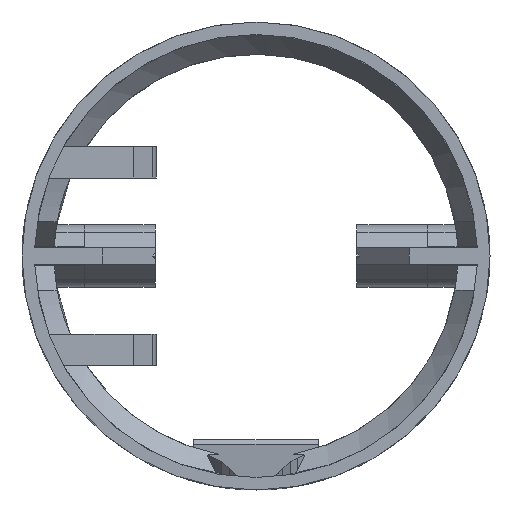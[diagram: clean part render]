
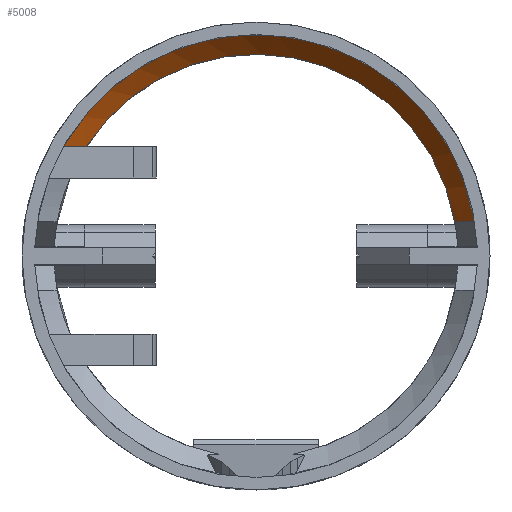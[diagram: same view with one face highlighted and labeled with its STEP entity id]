
A CAD part, left-side view. The second image highlights one B-rep face of the part: STEP entity #5008.
In plain terms, the highlighted conical face has half-angle 40 degrees and reference radius 21.35 mm.
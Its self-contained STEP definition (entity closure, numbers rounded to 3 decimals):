
#1291 = PLANE('',#1292);
#1292 = AXIS2_PLACEMENT_3D('',#1293,#1294,#1295);
#1293 = CARTESIAN_POINT('',(36.9,-30.,3.3));
#1294 = DIRECTION('',(0.,0.,1.));
#1295 = DIRECTION('',(1.,0.,-0.));
#2286 = CYLINDRICAL_SURFACE('',#2287,19.4);
#2287 = AXIS2_PLACEMENT_3D('',#2288,#2289,#2290);
#2288 = CARTESIAN_POINT('',(42.,0.,0.));
#2289 = DIRECTION('',(1.,0.,0.));
#2290 = DIRECTION('',(-0.,1.,0.));
#4874 = VERTEX_POINT('',#4875);
#4875 = CARTESIAN_POINT('',(42.,16.313,10.5));
#4888 = PLANE('',#4889);
#4889 = AXIS2_PLACEMENT_3D('',#4890,#4891,#4892);
#4890 = CARTESIAN_POINT('',(38.931,23.435,10.5));
#4891 = DIRECTION('',(0.,0.,1.));
#4892 = DIRECTION('',(1.,0.,-0.));
#4900 = EDGE_CURVE('',#4874,#4901,#4903,.T.);
#4901 = VERTEX_POINT('',#4902);
#4902 = CARTESIAN_POINT('',(42.,-19.117,3.3));
#4903 = SURFACE_CURVE('',#4904,(#4909,#4916),.PCURVE_S1.);
#4904 = CIRCLE('',#4905,19.4);
#4905 = AXIS2_PLACEMENT_3D('',#4906,#4907,#4908);
#4906 = CARTESIAN_POINT('',(42.,0.,0.));
#4907 = DIRECTION('',(1.,0.,0.));
#4908 = DIRECTION('',(-0.,1.,0.));
#4909 = PCURVE('',#2286,#4910);
#4910 = DEFINITIONAL_REPRESENTATION('',(#4911),#4915);
#4911 = LINE('',#4912,#4913);
#4912 = CARTESIAN_POINT('',(0.,0.));
#4913 = VECTOR('',#4914,1.);
#4914 = DIRECTION('',(1.,0.));
#4915 = ( GEOMETRIC_REPRESENTATION_CONTEXT(2) 
PARAMETRIC_REPRESENTATION_CONTEXT() REPRESENTATION_CONTEXT('2D SPACE',''
  ) );
#4916 = PCURVE('',#4917,#4922);
#4917 = CONICAL_SURFACE('',#4918,21.35,0.698);
#4918 = AXIS2_PLACEMENT_3D('',#4919,#4920,#4921);
#4919 = CARTESIAN_POINT('',(39.676,0.,0.));
#4920 = DIRECTION('',(-1.,-0.,-0.));
#4921 = DIRECTION('',(-0.,1.,0.));
#4922 = DEFINITIONAL_REPRESENTATION('',(#4923),#4927);
#4923 = LINE('',#4924,#4925);
#4924 = CARTESIAN_POINT('',(-0.,-2.324));
#4925 = VECTOR('',#4926,1.);
#4926 = DIRECTION('',(-1.,-0.));
#4927 = ( GEOMETRIC_REPRESENTATION_CONTEXT(2) 
PARAMETRIC_REPRESENTATION_CONTEXT() REPRESENTATION_CONTEXT('2D SPACE',''
  ) );
#5008 = ADVANCED_FACE('',(#5009),#4917,.F.);
#5009 = FACE_BOUND('',#5010,.F.);
#5010 = EDGE_LOOP('',(#5011,#5038,#5067,#5092));
#5011 = ORIENTED_EDGE('',*,*,#5012,.F.);
#5012 = EDGE_CURVE('',#5013,#4874,#5015,.T.);
#5013 = VERTEX_POINT('',#5014);
#5014 = CARTESIAN_POINT('',(39.736,18.532,10.5));
#5015 = SURFACE_CURVE('',#5016,(#5021,#5031),.PCURVE_S1.);
#5016 = HYPERBOLA('',#5017,12.513,10.5);
#5017 = AXIS2_PLACEMENT_3D('',#5018,#5019,#5020);
#5018 = CARTESIAN_POINT('',(65.12,0.,10.5));
#5019 = DIRECTION('',(0.,0.,1.));
#5020 = DIRECTION('',(-1.,0.,0.));
#5021 = PCURVE('',#4917,#5022);
#5022 = DEFINITIONAL_REPRESENTATION('',(#5023),#5030);
#5023 = B_SPLINE_CURVE_WITH_KNOTS('',5,(#5024,#5025,#5026,#5027,#5028,
    #5029),.UNSPECIFIED.,.F.,.F.,(6,6),(-1.333,-1.224)
  ,.PIECEWISE_BEZIER_KNOTS.);
#5024 = CARTESIAN_POINT('',(-0.515,-0.06));
#5025 = CARTESIAN_POINT('',(-0.526,-0.542));
#5026 = CARTESIAN_POINT('',(-0.537,-1.009));
#5027 = CARTESIAN_POINT('',(-0.549,-1.461));
#5028 = CARTESIAN_POINT('',(-0.56,-1.899));
#5029 = CARTESIAN_POINT('',(-0.572,-2.324));
#5030 = ( GEOMETRIC_REPRESENTATION_CONTEXT(2) 
PARAMETRIC_REPRESENTATION_CONTEXT() REPRESENTATION_CONTEXT('2D SPACE',''
  ) );
#5031 = PCURVE('',#4888,#5032);
#5032 = DEFINITIONAL_REPRESENTATION('',(#5033),#5037);
#5033 = HYPERBOLA('',#5034,12.513,10.5);
#5034 = AXIS2_PLACEMENT_2D('',#5035,#5036);
#5035 = CARTESIAN_POINT('',(26.189,-23.435));
#5036 = DIRECTION('',(-1.,0.));
#5037 = ( GEOMETRIC_REPRESENTATION_CONTEXT(2) 
PARAMETRIC_REPRESENTATION_CONTEXT() REPRESENTATION_CONTEXT('2D SPACE',''
  ) );
#5038 = ORIENTED_EDGE('',*,*,#5039,.T.);
#5039 = EDGE_CURVE('',#5013,#5040,#5042,.T.);
#5040 = VERTEX_POINT('',#5041);
#5041 = CARTESIAN_POINT('',(39.736,-21.043,3.3));
#5042 = SURFACE_CURVE('',#5043,(#5048,#5055),.PCURVE_S1.);
#5043 = CIRCLE('',#5044,21.3);
#5044 = AXIS2_PLACEMENT_3D('',#5045,#5046,#5047);
#5045 = CARTESIAN_POINT('',(39.736,0.,0.));
#5046 = DIRECTION('',(1.,0.,0.));
#5047 = DIRECTION('',(-0.,0.87,0.493));
#5048 = PCURVE('',#4917,#5049);
#5049 = DEFINITIONAL_REPRESENTATION('',(#5050),#5054);
#5050 = LINE('',#5051,#5052);
#5051 = CARTESIAN_POINT('',(-0.515,-0.06));
#5052 = VECTOR('',#5053,1.);
#5053 = DIRECTION('',(-1.,-0.));
#5054 = ( GEOMETRIC_REPRESENTATION_CONTEXT(2) 
PARAMETRIC_REPRESENTATION_CONTEXT() REPRESENTATION_CONTEXT('2D SPACE',''
  ) );
#5055 = PCURVE('',#5056,#5061);
#5056 = CYLINDRICAL_SURFACE('',#5057,21.3);
#5057 = AXIS2_PLACEMENT_3D('',#5058,#5059,#5060);
#5058 = CARTESIAN_POINT('',(29.,0.,0.));
#5059 = DIRECTION('',(1.,0.,0.));
#5060 = DIRECTION('',(-0.,0.,1.));
#5061 = DEFINITIONAL_REPRESENTATION('',(#5062),#5066);
#5062 = LINE('',#5063,#5064);
#5063 = CARTESIAN_POINT('',(5.228,10.736));
#5064 = VECTOR('',#5065,1.);
#5065 = DIRECTION('',(1.,0.));
#5066 = ( GEOMETRIC_REPRESENTATION_CONTEXT(2) 
PARAMETRIC_REPRESENTATION_CONTEXT() REPRESENTATION_CONTEXT('2D SPACE',''
  ) );
#5067 = ORIENTED_EDGE('',*,*,#5068,.F.);
#5068 = EDGE_CURVE('',#4901,#5040,#5069,.T.);
#5069 = SURFACE_CURVE('',#5070,(#5075,#5085),.PCURVE_S1.);
#5070 = HYPERBOLA('',#5071,3.933,3.3);
#5071 = AXIS2_PLACEMENT_3D('',#5072,#5073,#5074);
#5072 = CARTESIAN_POINT('',(65.12,0.,3.3));
#5073 = DIRECTION('',(0.,0.,1.));
#5074 = DIRECTION('',(-1.,0.,0.));
#5075 = PCURVE('',#4917,#5076);
#5076 = DEFINITIONAL_REPRESENTATION('',(#5077),#5084);
#5077 = B_SPLINE_CURVE_WITH_KNOTS('',5,(#5078,#5079,#5080,#5081,#5082,
    #5083),.UNSPECIFIED.,.F.,.F.,(6,6),(2.457,2.552),
  .PIECEWISE_BEZIER_KNOTS.);
#5078 = CARTESIAN_POINT('',(-2.971,-2.324));
#5079 = CARTESIAN_POINT('',(-2.974,-1.892));
#5080 = CARTESIAN_POINT('',(-2.977,-1.451));
#5081 = CARTESIAN_POINT('',(-2.98,-0.998));
#5082 = CARTESIAN_POINT('',(-2.983,-0.535));
#5083 = CARTESIAN_POINT('',(-2.986,-0.06));
#5084 = ( GEOMETRIC_REPRESENTATION_CONTEXT(2) 
PARAMETRIC_REPRESENTATION_CONTEXT() REPRESENTATION_CONTEXT('2D SPACE',''
  ) );
#5085 = PCURVE('',#1291,#5086);
#5086 = DEFINITIONAL_REPRESENTATION('',(#5087),#5091);
#5087 = ( BOUNDED_CURVE() B_SPLINE_CURVE(2,(#5088,#5089,#5090),
.UNSPECIFIED.,.F.,.F.) B_SPLINE_CURVE_WITH_KNOTS((3,3),(2.457,
2.552),.PIECEWISE_BEZIER_KNOTS.) CURVE() 
GEOMETRIC_REPRESENTATION_ITEM() RATIONAL_B_SPLINE_CURVE((1.,
1.001,1.)) REPRESENTATION_ITEM('') );
#5088 = CARTESIAN_POINT('',(5.1,10.883));
#5089 = CARTESIAN_POINT('',(4.022,9.965));
#5090 = CARTESIAN_POINT('',(2.836,8.957));
#5091 = ( GEOMETRIC_REPRESENTATION_CONTEXT(2) 
PARAMETRIC_REPRESENTATION_CONTEXT() REPRESENTATION_CONTEXT('2D SPACE',''
  ) );
#5092 = ORIENTED_EDGE('',*,*,#4900,.F.);
